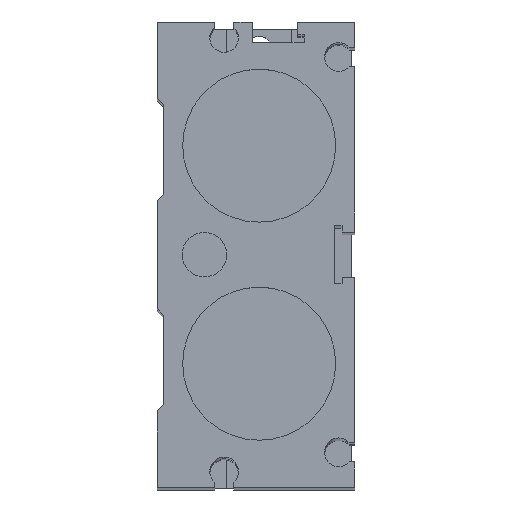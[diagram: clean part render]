
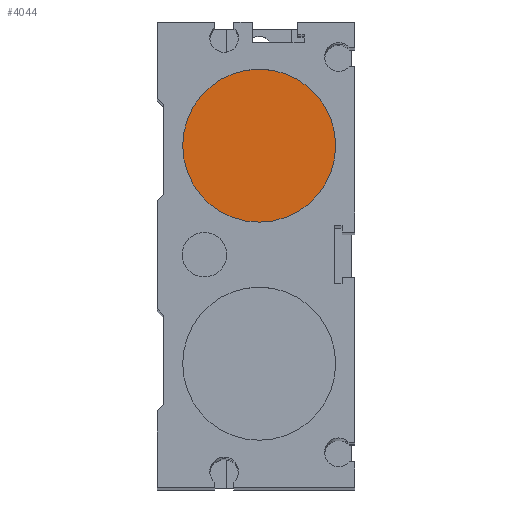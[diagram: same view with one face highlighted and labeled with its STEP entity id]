
A CAD part, top view. The second image highlights one B-rep face of the part: STEP entity #4044.
In plain terms, the highlighted planar face has unit normal (0, 0, 1).
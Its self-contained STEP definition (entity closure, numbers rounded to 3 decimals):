
#4021=CARTESIAN_POINT('',(12.,17.1,431.));
#4022=VERTEX_POINT('',#4021);
#4023=CARTESIAN_POINT('',(0.,17.1,431.));
#4024=DIRECTION('',(0.0,0.0,1.0));
#4025=DIRECTION('',(-1.0,0.0,0.0));
#4026=AXIS2_PLACEMENT_3D('',#4023,#4024,#4025);
#4027=CIRCLE('',#4026,12.);
#4028=EDGE_CURVE('',#4022,#4022,#4027,.T.);
#4036=CARTESIAN_POINT('',(0.,17.1,431.));
#4037=DIRECTION('',(0.0,0.0,-1.0));
#4038=DIRECTION('',(-1.0,0.0,0.0));
#4039=AXIS2_PLACEMENT_3D('',#4036,#4037,#4038);
#4040=PLANE('',#4039);
#4041=ORIENTED_EDGE('',*,*,#4028,.T.);
#4042=EDGE_LOOP('',(#4041));
#4043=FACE_OUTER_BOUND('',#4042,.T.);
#4044=ADVANCED_FACE('',(#4043),#4040,.F.);
